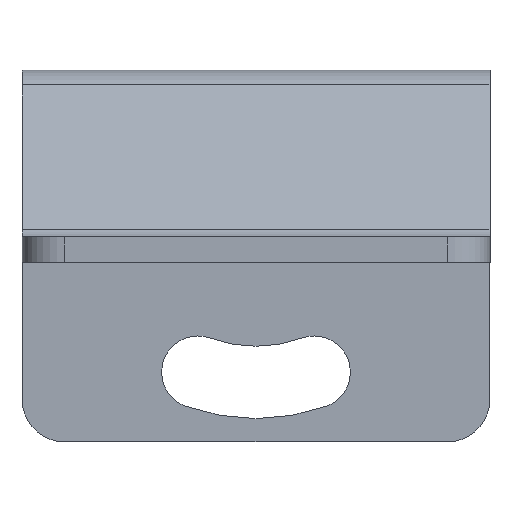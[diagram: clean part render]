
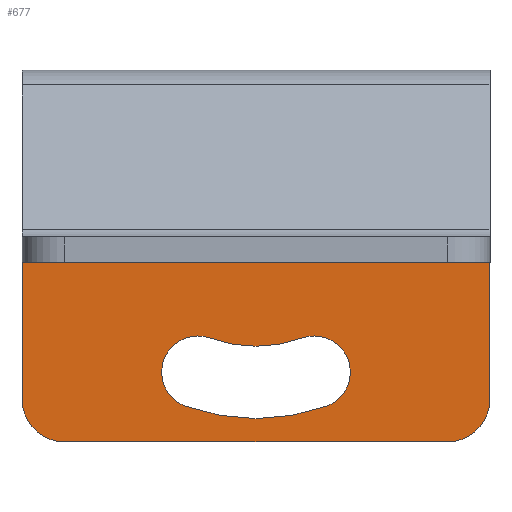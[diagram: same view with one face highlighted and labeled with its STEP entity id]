
A CAD part, left-side view. The second image highlights one B-rep face of the part: STEP entity #677.
In plain terms, the highlighted planar face has unit normal (-1, 0, 0).
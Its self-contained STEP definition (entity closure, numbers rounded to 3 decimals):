
#19=FACE_BOUND('',#124,.T.);
#20=FACE_BOUND('',#125,.T.);
#78=FACE_OUTER_BOUND('',#123,.T.);
#123=EDGE_LOOP('',(#589,#590,#591,#592,#593,#594));
#124=EDGE_LOOP('',(#595,#596,#597,#598));
#125=EDGE_LOOP('',(#599));
#134=LINE('',#1009,#193);
#177=LINE('',#1127,#236);
#186=LINE('',#1172,#245);
#187=LINE('',#1174,#246);
#193=VECTOR('',#798,10.);
#236=VECTOR('',#927,10.);
#245=VECTOR('',#980,10.);
#246=VECTOR('',#983,10.);
#269=CIRCLE('',#755,4.25);
#270=CIRCLE('',#757,4.25);
#272=CIRCLE('',#760,15.75);
#274=CIRCLE('',#763,24.25);
#277=CIRCLE('',#767,4.25);
#279=CIRCLE('',#770,5.);
#281=CIRCLE('',#773,5.);
#282=VERTEX_POINT('',#991);
#287=VERTEX_POINT('',#1001);
#319=VERTEX_POINT('',#1121);
#321=VERTEX_POINT('',#1125);
#323=VERTEX_POINT('',#1130);
#325=VERTEX_POINT('',#1134);
#327=VERTEX_POINT('',#1139);
#328=VERTEX_POINT('',#1141);
#331=VERTEX_POINT('',#1155);
#333=VERTEX_POINT('',#1161);
#335=VERTEX_POINT('',#1167);
#344=EDGE_CURVE('',#282,#287,#134,.T.);
#403=EDGE_CURVE('',#321,#319,#177,.T.);
#407=EDGE_CURVE('',#323,#325,#269,.T.);
#409=EDGE_CURVE('',#328,#327,#270,.T.);
#412=EDGE_CURVE('',#327,#323,#272,.T.);
#414=EDGE_CURVE('',#325,#328,#274,.T.);
#418=EDGE_CURVE('',#331,#331,#277,.T.);
#421=EDGE_CURVE('',#333,#321,#279,.T.);
#423=EDGE_CURVE('',#319,#335,#281,.T.);
#426=EDGE_CURVE('',#335,#287,#186,.T.);
#427=EDGE_CURVE('',#282,#333,#187,.T.);
#589=ORIENTED_EDGE('',*,*,#344,.T.);
#590=ORIENTED_EDGE('',*,*,#426,.F.);
#591=ORIENTED_EDGE('',*,*,#423,.F.);
#592=ORIENTED_EDGE('',*,*,#403,.F.);
#593=ORIENTED_EDGE('',*,*,#421,.F.);
#594=ORIENTED_EDGE('',*,*,#427,.F.);
#595=ORIENTED_EDGE('',*,*,#412,.T.);
#596=ORIENTED_EDGE('',*,*,#407,.T.);
#597=ORIENTED_EDGE('',*,*,#414,.T.);
#598=ORIENTED_EDGE('',*,*,#409,.T.);
#599=ORIENTED_EDGE('',*,*,#418,.T.);
#636=PLANE('',#775);
#677=ADVANCED_FACE('',(#78,#19,#20),#636,.F.);
#755=AXIS2_PLACEMENT_3D('',#1136,#934,#935);
#757=AXIS2_PLACEMENT_3D('',#1142,#939,#940);
#760=AXIS2_PLACEMENT_3D('',#1147,#946,#947);
#763=AXIS2_PLACEMENT_3D('',#1150,#952,#953);
#767=AXIS2_PLACEMENT_3D('',#1157,#961,#962);
#770=AXIS2_PLACEMENT_3D('',#1163,#968,#969);
#773=AXIS2_PLACEMENT_3D('',#1168,#974,#975);
#775=AXIS2_PLACEMENT_3D('',#1173,#981,#982);
#798=DIRECTION('',(0.,1.,0.));
#927=DIRECTION('',(0.,1.,0.));
#934=DIRECTION('center_axis',(1.,0.,0.));
#935=DIRECTION('ref_axis',(0.,0.,-1.));
#939=DIRECTION('center_axis',(1.,0.,0.));
#940=DIRECTION('ref_axis',(0.,0.,-1.));
#946=DIRECTION('center_axis',(-1.,0.,0.));
#947=DIRECTION('ref_axis',(0.,0.342,0.94));
#952=DIRECTION('center_axis',(1.,0.,0.));
#953=DIRECTION('ref_axis',(0.,-0.342,-0.94));
#961=DIRECTION('center_axis',(1.,0.,0.));
#962=DIRECTION('ref_axis',(0.,0.,
1.));
#968=DIRECTION('center_axis',(1.,0.,0.));
#969=DIRECTION('ref_axis',(0.,-0.707,-0.707));
#974=DIRECTION('center_axis',(1.,0.,0.));
#975=DIRECTION('ref_axis',(0.,0.707,-0.707));
#980=DIRECTION('',(0.,0.,1.));
#981=DIRECTION('center_axis',(1.,0.,0.));
#982=DIRECTION('ref_axis',(0.,0.,-1.));
#983=DIRECTION('',(0.,0.,-1.));
#991=CARTESIAN_POINT('',(116.049,0.,16.607));
#1001=CARTESIAN_POINT('',(116.049,55.,16.607));
#1009=CARTESIAN_POINT('',(116.049,13.75,16.607));
#1121=CARTESIAN_POINT('',(116.049,50.,-21.108));
#1125=CARTESIAN_POINT('',(116.049,5.,-21.108));
#1127=CARTESIAN_POINT('',(116.049,0.,-21.108));
#1130=CARTESIAN_POINT('',(116.049,22.114,-8.908));
#1134=CARTESIAN_POINT('',(116.049,19.207,-16.895));
#1136=CARTESIAN_POINT('Origin',(116.049,20.66,-12.902));
#1139=CARTESIAN_POINT('',(116.049,32.887,-8.908));
#1141=CARTESIAN_POINT('',(116.049,35.794,-16.895));
#1142=CARTESIAN_POINT('Origin',(116.049,34.34,-12.902));
#1147=CARTESIAN_POINT('Origin',(116.049,27.5,5.892));
#1150=CARTESIAN_POINT('Origin',(116.049,27.5,5.892));
#1155=CARTESIAN_POINT('',(116.049,27.5,1.642));
#1157=CARTESIAN_POINT('Origin',(116.049,27.5,5.892));
#1161=CARTESIAN_POINT('',(116.049,0.,-16.108));
#1163=CARTESIAN_POINT('Origin',(116.049,5.,-16.108));
#1167=CARTESIAN_POINT('',(116.049,55.,-16.108));
#1168=CARTESIAN_POINT('Origin',(116.049,50.,-16.108));
#1172=CARTESIAN_POINT('',(116.049,55.,-21.108));
#1173=CARTESIAN_POINT('Origin',(116.049,27.5,61.392));
#1174=CARTESIAN_POINT('',(116.049,0.,143.892));
